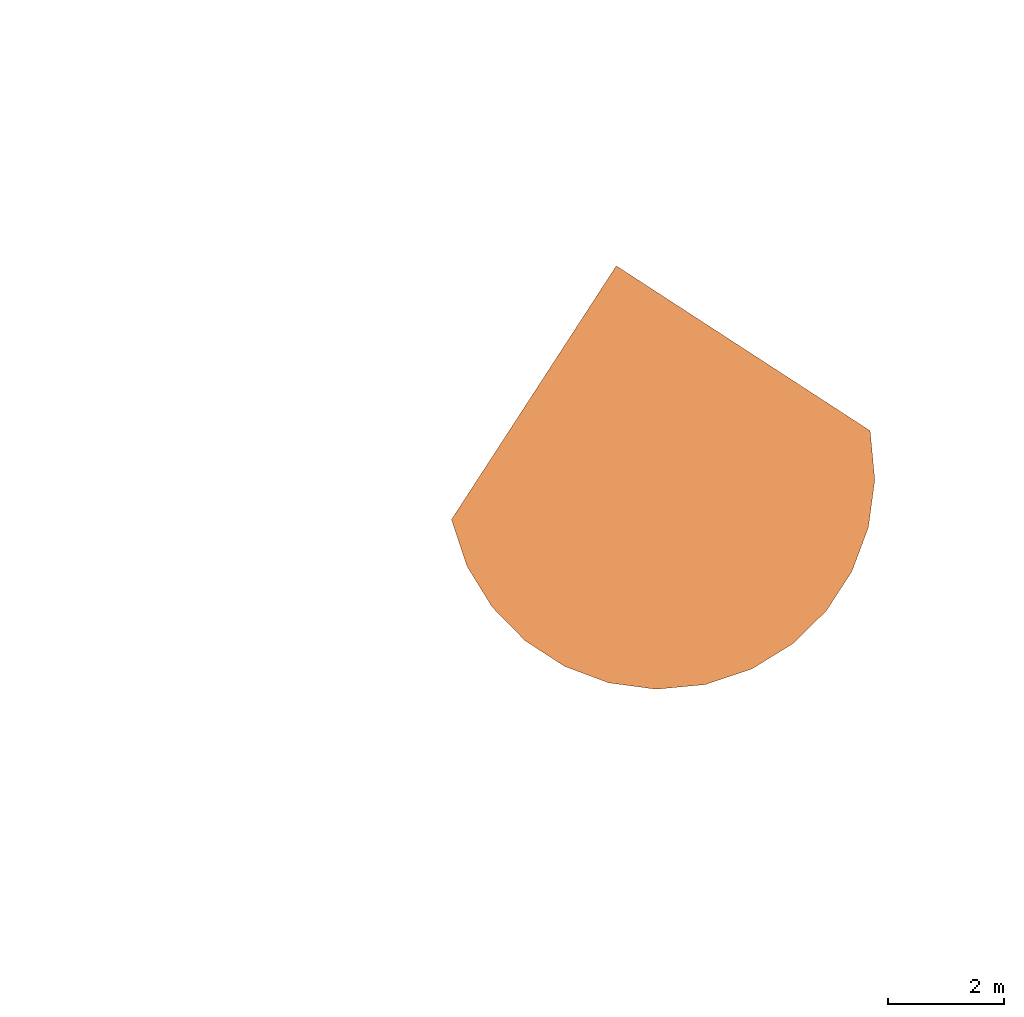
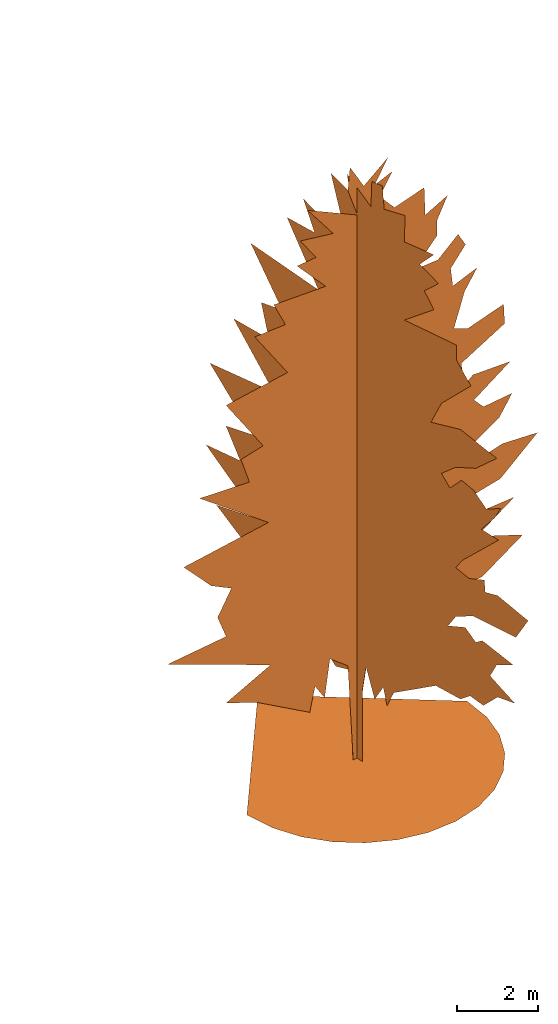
# One storey, part 14 of 17: 1 proxy.
"""IFC2X3 building model written with IfcOpenShell, lengths in centimetres."""

from ifc_helpers import new_model, entity, si_unit, converted_unit, derived_unit, direction, frame, origin, place, context, subcontext, project, spatial, face_set, surface_model, source, transform, mapped, material, type_object, type_shapes, element, save


model = new_model("IFC2X3")

# Units and contexts
model_context = context("Model", 3, precision=0.001, world=origin(), true_north=direction((6.12303176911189e-17, 1.0)))
body_context = subcontext(model_context, "Body", "Model", "MODEL_VIEW")
ifc_project = project(units=[si_unit("LENGTHUNIT", "METRE", prefix="CENTI"), si_unit("AREAUNIT", "SQUARE_METRE"), si_unit("VOLUMEUNIT", "CUBIC_METRE"), converted_unit("PLANEANGLEUNIT", "DEGREE", entity("IfcRatioMeasure", 0.0174532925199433), si_unit("PLANEANGLEUNIT", "RADIAN"), dimensions=[0, 0, 0, 0, 0, 0, 0]), si_unit("MASSUNIT", "GRAM", prefix="KILO"), derived_unit("MASSDENSITYUNIT", [(si_unit("MASSUNIT", "GRAM", prefix="KILO"), 1), (si_unit("LENGTHUNIT", "METRE"), -3)]), derived_unit("IONCONCENTRATIONUNIT", [(si_unit("MASSUNIT", "GRAM", prefix="KILO"), 1), (si_unit("LENGTHUNIT", "METRE"), -3)]), derived_unit("MOMENTOFINERTIAUNIT", [(si_unit("LENGTHUNIT", "METRE"), 4)]), si_unit("TIMEUNIT", "SECOND"), si_unit("FREQUENCYUNIT", "HERTZ"), si_unit("THERMODYNAMICTEMPERATUREUNIT", "DEGREE_CELSIUS"), derived_unit("THERMALTRANSMITTANCEUNIT", [(si_unit("MASSUNIT", "GRAM", prefix="KILO"), 1), (si_unit("THERMODYNAMICTEMPERATUREUNIT", "KELVIN"), -1), (si_unit("TIMEUNIT", "SECOND"), -3)]), derived_unit("THERMALCONDUCTANCEUNIT", [(si_unit("MASSUNIT", "GRAM", prefix="KILO"), 1), (si_unit("THERMODYNAMICTEMPERATUREUNIT", "KELVIN"), -1), (si_unit("TIMEUNIT", "SECOND"), -3), (si_unit("LENGTHUNIT", "METRE"), 1)]), derived_unit("VOLUMETRICFLOWRATEUNIT", [(si_unit("LENGTHUNIT", "METRE"), 3), (si_unit("TIMEUNIT", "SECOND"), -1)]), derived_unit("MASSFLOWRATEUNIT", [(si_unit("MASSUNIT", "GRAM", prefix="KILO"), 1), (si_unit("TIMEUNIT", "SECOND"), -1)]), derived_unit("ROTATIONALFREQUENCYUNIT", [(si_unit("TIMEUNIT", "SECOND"), -1)]), si_unit("ELECTRICCURRENTUNIT", "AMPERE"), si_unit("ELECTRICVOLTAGEUNIT", "VOLT"), si_unit("POWERUNIT", "WATT"), si_unit("FORCEUNIT", "NEWTON", prefix="KILO"), si_unit("ILLUMINANCEUNIT", "LUX"), si_unit("LUMINOUSFLUXUNIT", "LUMEN"), si_unit("LUMINOUSINTENSITYUNIT", "CANDELA"), derived_unit("USERDEFINED", [(si_unit("MASSUNIT", "GRAM", prefix="KILO"), -1), (si_unit("LENGTHUNIT", "METRE"), -2), (si_unit("TIMEUNIT", "SECOND"), 3), (si_unit("LUMINOUSFLUXUNIT", "LUMEN"), 1)]), derived_unit("USERDEFINED", [(si_unit("MASSUNIT", "GRAM", prefix="KILO"), 1), (si_unit("TIMEUNIT", "SECOND"), -3), (si_unit("LENGTHUNIT", "METRE"), 3), (si_unit("ELECTRICCURRENTUNIT", "AMPERE"), -2)]), derived_unit("SOUNDPOWERUNIT", [(si_unit("MASSUNIT", "GRAM", prefix="KILO"), 1), (si_unit("TIMEUNIT", "SECOND"), -3), (si_unit("LENGTHUNIT", "METRE"), 2)]), derived_unit("SOUNDPRESSUREUNIT", [(si_unit("MASSUNIT", "GRAM", prefix="KILO"), 1), (si_unit("LENGTHUNIT", "METRE"), -1), (si_unit("TIMEUNIT", "SECOND"), -2)]), derived_unit("LINEARVELOCITYUNIT", [(si_unit("LENGTHUNIT", "METRE"), 1), (si_unit("TIMEUNIT", "SECOND"), -1)]), si_unit("PRESSUREUNIT", "PASCAL"), derived_unit("USERDEFINED", [(si_unit("MASSUNIT", "GRAM", prefix="KILO"), 1), (si_unit("LENGTHUNIT", "METRE"), -2), (si_unit("TIMEUNIT", "SECOND"), -2)]), derived_unit("LINEARFORCEUNIT", [(si_unit("MASSUNIT", "GRAM", prefix="KILO"), 1), (si_unit("TIMEUNIT", "SECOND"), -2)]), derived_unit("PLANARFORCEUNIT", [(si_unit("MASSUNIT", "GRAM", prefix="KILO"), 1), (si_unit("LENGTHUNIT", "METRE"), -1), (si_unit("TIMEUNIT", "SECOND"), -2)]), derived_unit("SPECIFICHEATCAPACITYUNIT", [(si_unit("THERMODYNAMICTEMPERATUREUNIT", "KELVIN"), -1), (si_unit("LENGTHUNIT", "METRE"), 2), (si_unit("TIMEUNIT", "SECOND"), -2)]), derived_unit("HEATINGVALUEUNIT", [(si_unit("LENGTHUNIT", "METRE"), 2), (si_unit("TIMEUNIT", "SECOND"), -2)]), derived_unit("VAPORPERMEABILITYUNIT", [(si_unit("LENGTHUNIT", "METRE"), -1), (si_unit("TIMEUNIT", "SECOND"), 1)]), derived_unit("DYNAMICVISCOSITYUNIT", [(si_unit("MASSUNIT", "GRAM", prefix="KILO"), 1), (si_unit("TIMEUNIT", "SECOND"), -1), (si_unit("LENGTHUNIT", "METRE"), -1)]), derived_unit("THERMALEXPANSIONCOEFFICIENTUNIT", [(si_unit("THERMODYNAMICTEMPERATUREUNIT", "KELVIN"), -1)]), derived_unit("MODULUSOFELASTICITYUNIT", [(si_unit("MASSUNIT", "GRAM", prefix="KILO"), 1), (si_unit("LENGTHUNIT", "METRE"), -1), (si_unit("TIMEUNIT", "SECOND"), -2)]), derived_unit("ISOTHERMALMOISTURECAPACITYUNIT", [(si_unit("LENGTHUNIT", "METRE"), 3), (si_unit("MASSUNIT", "GRAM", prefix="KILO"), -1)]), derived_unit("MOISTUREDIFFUSIVITYUNIT", [(si_unit("TIMEUNIT", "SECOND"), -1), (si_unit("LENGTHUNIT", "METRE"), 2)])], contexts=[model_context])

# Site, building, storey
site_placement = place(None, frame((14083.8920177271, -6853.25409548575, 6900.0), z_axis=(0.0, 0.0, 1.0), x_axis=(0.978188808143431, 0.207717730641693, 0.0)))
site = spatial("IfcSite", under=ifc_project, at=site_placement, Name="Surface", CompositionType="ELEMENT")
building_placement = place(site_placement, origin())
building = spatial("IfcBuilding", under=site, at=building_placement, CompositionType="ELEMENT")
storey_placement = place(building_placement, origin())
storey = spatial("IfcBuildingStorey", under=building, at=storey_placement, Name="_Rez de chaussée Séjour", CompositionType="ELEMENT", Elevation=2.07727662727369e-10)

# Proxy
ifc_material = material(Name="<Unnamed>")
building_element_proxy_type = type_object("IfcBuildingElementProxyType", Name="PLANTE- Conifères divers:Pin en tige remontée_ Grand", PredefinedType="NOTDEFINED", material=ifc_material)
shared_shape = source(origin(), body_context, "Body", "SurfaceModel", [
    surface_model("IfcFaceBasedSurfaceModel", [(367.677470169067, 3.21416517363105e-05, 4.60540132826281e-05), (0.0196188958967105, 367.657791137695, 4.60540132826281e-05), (-367.638112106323, 0.0, 4.60540132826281e-05), (357.958208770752, -84.2430701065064, 4.60540132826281e-05), (-357.918850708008, -84.2430701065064, 4.60540132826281e-05), (330.27643913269, -161.606385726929, 4.60540132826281e-05), (-330.237081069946, -161.606385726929, 4.60540132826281e-05), (-286.810545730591, -229.874428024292, 4.60540132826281e-05), (286.849903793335, -229.874428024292, 4.60540132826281e-05), (229.894092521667, -286.830224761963, 4.60540132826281e-05), (-229.854763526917, -286.830224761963, 4.60540132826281e-05), (-161.586721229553, -330.256760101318, 4.60540132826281e-05), (-84.2234056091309, -357.93852973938, 4.60540132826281e-05), (0.0196831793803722, -367.657791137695, 4.60540132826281e-05), (84.2627346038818, -357.93852973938, 4.60540132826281e-05), (161.626050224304, -330.256760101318, 4.60540132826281e-05), (22.7530098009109, -0.000102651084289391, 1722.20383209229), (104.088995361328, -0.000105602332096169, 1771.71139160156), (58.1164381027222, -0.000101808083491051, 1708.05888153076), (-288.445562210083, -2.48723456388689e-05, 417.289093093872), (-631.471862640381, -3.45683517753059e-05, 579.961227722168), (-436.972659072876, -3.41467786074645e-05, 572.88869430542), (-79.8014008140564, -9.69600752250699e-05, 1626.72128814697), (-164.673713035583, -0.000103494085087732, 1736.34889892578), (1.53486327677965, -9.80138279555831e-05, 1644.39881378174), (-295.518793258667, -5.0798665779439e-05, 852.26315322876), (-525.381245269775, -6.15485736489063e-05, 1032.61580749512), (-359.172843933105, -5.98623502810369e-05, 1004.3257901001), (394.069231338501, -3.30928768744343e-05, 555.206692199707), (524.914297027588, -3.24605517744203e-05, 544.597921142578), (408.214995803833, -2.9088021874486e-05, 488.016374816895), (386.996726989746, -5.83868719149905e-05, 979.568231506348), (510.769288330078, -5.73328974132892e-05, 961.883264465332), (390.53299369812, -5.37496190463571e-05, 901.770712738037), (-30.2922825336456, -0.000103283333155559, 1732.80888244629), (-23.2195529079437, -0.00010728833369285, 1800.00140899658), (319.806438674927, -7.630355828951e-05, 1280.16104644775), (401.142491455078, -7.73573110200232e-05, 1297.83857208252), (358.705953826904, -7.41955330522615e-05, 1244.79099609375), (118.234011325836, -0.000102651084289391, 1722.20383209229), (75.7982221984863, -9.92783326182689e-05, 1665.62379730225), (-136.382939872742, -9.42195724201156e-05, 1580.74630371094), (-189.428234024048, -9.86460768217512e-05, 1655.01130554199), (227.860844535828, -9.16905700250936e-05, 1538.31121948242), (302.124407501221, -9.3165826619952e-05, 1563.06877807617), (266.761129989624, -8.9582323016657e-05, 1502.94872680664), (-334.418337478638, -1.93920157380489e-05, 325.344269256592), (-436.972659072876, -2.21322170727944e-05, 371.316288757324), (-90.4101573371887, -2.04459157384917e-05, 343.025515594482), (-108.092173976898, -1.3911685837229e-05, 233.398689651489), (-139.919192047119, -1.68626391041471e-05, 282.907731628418), (486.014810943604, -4.32104596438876e-05, 724.951331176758), (602.714141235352, -4.19458094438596e-05, 703.733091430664), (478.941550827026, -3.70978046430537e-05, 622.39700958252), (-104.555921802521, -8.81070733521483e-05, 1478.19116821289), (-200.03699054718, -9.44310728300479e-05, 1584.28632019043), (89.9432381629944, -1.53871624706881e-05, 258.153196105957), (68.7254925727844, -1.20146343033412e-05, 201.57166431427), (33.3619934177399, -1.62303122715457e-05, 272.298960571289), (-486.480974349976, -4.46859345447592e-05, 749.705866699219), (-578.426553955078, -5.05878410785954e-05, 848.723194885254), (440.042035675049, -2.78232971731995e-05, 466.798135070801), (553.20507019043, -2.48723456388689e-05, 417.289093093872), (418.823766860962, -2.10783170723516e-05, 353.635042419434), (-231.864015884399, -7.6092813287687e-05, 1276.62102996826), (-341.490841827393, -8.55780709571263e-05, 1435.75620025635), (-238.936520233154, -8.49458151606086e-05, 1425.15114990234), (422.360760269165, -5.16418155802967e-05, 866.408220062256), (517.841821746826, -5.1430990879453e-05, 862.868203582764), (475.405313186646, -4.82692891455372e-05, 809.820627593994), (-277.836791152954, -8.9582323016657e-05, 1502.94872680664), (365.778458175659, -2.59263201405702e-05, 434.971095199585), (-313.200068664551, -6.51318554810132e-05, 1092.7284173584), (-436.972659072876, -7.58820613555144e-05, 1273.08857116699), (351.633449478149, -2.10783170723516e-05, 353.635042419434), (-419.290656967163, -4.23673098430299e-05, 710.806322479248), (358.705953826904, -5.73328974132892e-05, 961.883264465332), (337.487685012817, -4.46859345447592e-05, 749.705866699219), (-157.600467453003, -1.26469602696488e-05, 212.181176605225), (8.60762412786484, -8.22053123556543e-06, 137.917613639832), (12.1438772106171, 0.0, 0.0), (-12.6104929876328, 0.0, 0.0), (-30.2922825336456, -1.74949642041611e-05, 293.517229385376), (-387.463617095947, -6.47103516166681e-05, 1085.65582580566), (362.242220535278, -4.23673098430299e-05, 710.806322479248), (390.53299369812, -3.66762280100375e-05, 615.324476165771), (125.307264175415, -9.59063294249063e-05, 1609.03632110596), (224.32459236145, -9.67493302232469e-05, 1623.18127166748), (369.315480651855, -6.72397282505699e-05, 1128.09835144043), (489.551048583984, -6.82936265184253e-05, 1145.7758770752), (493.087286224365, -6.47103516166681e-05, 1085.65582580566), (348.097211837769, -6.15485736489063e-05, 1032.61580749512), (270.297396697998, -8.24160642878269e-05, 1382.70862426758), (337.487685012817, -8.51565670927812e-05, 1428.68360870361), (362.242220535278, -8.26268162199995e-05, 1386.24864074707), (312.73317855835, -7.96755614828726e-05, 1336.74108123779), (323.342676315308, -6.85043784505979e-05, 1149.31589355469), (192.497567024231, -1.51763377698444e-05, 254.616958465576), (153.598037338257, -1.30685351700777e-05, 219.253680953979), (-465.263432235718, -3.83624548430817e-05, 643.615249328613), (266.761129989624, -8.68425686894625e-05, 1456.97362609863), (188.961314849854, -8.2837568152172e-05, 1389.78865722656), (270.297396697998, -1.77057889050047e-05, 297.05349609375), (0.0196671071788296, -479.405621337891, 1004.3257901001), (0.0196671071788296, -532.450930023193, 1032.61580749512), (0.0196671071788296, -511.232632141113, 993.713298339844), (0.0196671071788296, -493.5506300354, 505.697679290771), (0.0196671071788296, -585.496238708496, 470.334372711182), (0.0196671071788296, -521.841403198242, 456.189364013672), (0.0196671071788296, -465.259885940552, 597.643229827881), (0.0196671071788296, -578.422949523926, 583.497465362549), (0.0196671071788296, -518.305165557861, 551.670454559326), (0.0196671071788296, -175.279635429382, 1655.01130554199), (0.0196671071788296, -284.906475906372, 1672.69638885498), (0.0196671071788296, -231.861181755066, 1616.10879638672), (0.0196671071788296, 365.782033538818, 533.988452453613), (0.0196671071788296, 560.28120803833, 657.761013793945), (0.0196671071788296, 432.972350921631, 675.443015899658), (0.0196671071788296, -136.379364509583, 268.762722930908), (0.0196671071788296, -111.62483625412, 215.717428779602), (0.0196671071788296, -97.4798275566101, 265.226456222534), (0.0196671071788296, 344.563764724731, 396.070824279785), (0.0196671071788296, 521.380908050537, 495.088908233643), (0.0196671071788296, 157.137123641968, 1510.0212020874), (0.0196671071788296, 199.573661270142, 1591.35879547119), (0.0196671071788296, 33.3651254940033, 1534.77876068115), (0.0196671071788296, -461.723619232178, 933.593247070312), (0.0196671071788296, -525.377698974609, 933.593247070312), (0.0196671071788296, -390.997064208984, 802.748152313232), (0.0196671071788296, 26.2924703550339, 1700.98640625), (0.0196671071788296, 36.9014539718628, 1750.4938494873), (0.0196671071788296, -51.507190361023, 1697.44638977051), (0.0196671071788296, 309.200487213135, 947.738255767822), (0.0196671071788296, 457.726857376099, 1092.7284173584), (0.0196671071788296, 326.881762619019, 1099.80089263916), (0.0196671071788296, 277.373476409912, 1212.96851989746), (0.0196671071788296, 394.07280670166, 1354.41860687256), (0.0196671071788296, 142.992114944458, 1343.81355651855), (0.0196671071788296, 387.000302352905, 777.998151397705), (0.0196671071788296, 546.135443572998, 912.375704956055), (0.0196671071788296, -383.923804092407, 1195.28343658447), (0.0196671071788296, -518.305165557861, 1177.60591094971), (0.0196671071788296, -440.505350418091, 1106.88092559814), (0.0196671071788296, -65.6525769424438, 212.181176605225), (0.0196671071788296, -33.8254753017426, 293.517229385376), (0.0196671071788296, 54.5832453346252, 1598.43127075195), (0.0196671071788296, 97.0193251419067, 1722.20383209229), (0.0196671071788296, 284.445980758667, 236.935683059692), (0.0196671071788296, 464.799361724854, 339.489277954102), (0.0196671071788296, 259.691445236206, 1502.94872680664), (0.0196671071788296, -302.587751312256, 1594.89125427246), (0.0196671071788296, -249.542442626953, 1545.38369476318), (0.0196671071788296, -521.841403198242, 763.853084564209), (0.0196671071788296, -635.004495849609, 746.169570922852), (0.0196671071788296, -589.032476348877, 671.906022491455), (0.0196671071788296, -429.896608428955, 654.224776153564), (0.0196671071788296, -475.86938369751, 749.705866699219), (0.0196671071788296, 486.01763053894, 753.240592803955), (0.0196671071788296, -415.750843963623, 760.313126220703), (0.0196671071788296, -472.332390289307, 785.070626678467), (0.0196671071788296, -101.016079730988, 1715.13135681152), (0.0196671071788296, -178.81588760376, 1736.34889892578), (0.0196671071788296, -366.242528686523, 1071.51087524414), (0.0196671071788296, -274.296978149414, 1159.92094390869), (0.0196671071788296, 125.310098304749, 275.835227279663), (0.0196671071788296, 135.918854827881, 198.035412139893), (0.0196671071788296, -281.370238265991, 1432.22362518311), (0.0196671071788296, -369.778795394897, 1442.82867553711), (0.0196671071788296, -369.778795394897, 1396.86113250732), (0.0196671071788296, -313.197249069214, 1025.54333221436), (0.0196671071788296, -55.0435951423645, 1775.2439666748), (0.0196671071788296, -93.9435753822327, 1782.31644195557), (0.0196671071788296, 355.17253578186, 1195.28343658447), (0.0196671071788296, -284.906475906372, 1506.48118560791), (0.0196671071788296, -175.279635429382, 1418.07867462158), (0.0196671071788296, -422.824075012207, 1347.3461315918), (0.0196671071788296, -313.197249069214, 1237.71852081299), (0.0196671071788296, -19.6800905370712, 212.181176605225), (0.0196671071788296, -19.6800905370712, 4.60540132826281e-05), (0.0196671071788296, 15.68333776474, 4.60540132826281e-05), (0.0196671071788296, 26.2924703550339, 190.962907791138), (0.0196671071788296, 33.3651254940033, 251.080691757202), (0.0196671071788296, -440.505350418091, 579.961227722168), (0.0196671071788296, -468.796123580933, 403.144084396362), (0.0196671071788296, -419.287837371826, 406.680322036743), (0.0196671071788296, -366.242528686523, 767.385601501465), (0.0196671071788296, -366.242528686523, 618.860771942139), (0.0196671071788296, -433.432846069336, 1036.14838256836), (0.0196671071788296, -387.460070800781, 1043.22085784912), (0.0196671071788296, -345.02428894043, 997.253314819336), (0.0196671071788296, -401.605835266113, 604.715705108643), (0.0196671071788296, -337.951784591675, 576.424990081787), (0.0196671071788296, -383.923804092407, 378.389548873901), (0.0196671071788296, -291.978980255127, 371.316288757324), (0.0196671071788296, 79.3373157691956, 236.935683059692)], [face_set([[[0, 1, 2]], [[3, 0, 2]], [[3, 2, 4]], [[5, 3, 4]], [[5, 4, 6]], [[5, 6, 7]], [[8, 5, 7]], [[9, 8, 7]], [[9, 7, 10]], [[9, 10, 11]], [[9, 11, 12]], [[9, 12, 13]], [[9, 13, 14]], [[9, 14, 15]], [[16, 17, 18]], [[19, 20, 21]], [[22, 23, 24]], [[25, 26, 27]], [[28, 29, 30]], [[31, 32, 33]], [[34, 35, 16]], [[36, 37, 38]], [[18, 39, 40]], [[41, 42, 22]], [[43, 44, 45]], [[46, 47, 19]], [[48, 49, 50]], [[51, 52, 53]], [[54, 55, 41]], [[56, 57, 58]], [[59, 60, 25]], [[61, 62, 63]], [[64, 65, 66]], [[67, 68, 69]], [[66, 70, 54]], [[71, 61, 63]], [[72, 73, 64]], [[71, 63, 74]], [[75, 59, 25]], [[24, 34, 16]], [[76, 31, 33]], [[67, 69, 77]], [[50, 78, 46]], [[79, 80, 81]], [[79, 81, 82]], [[58, 79, 82]], [[50, 46, 19]], [[27, 83, 72]], [[84, 51, 53]], [[84, 53, 85]], [[24, 16, 18]], [[24, 18, 40]], [[86, 87, 43]], [[88, 89, 90]], [[88, 90, 91]], [[92, 93, 94]], [[92, 94, 95]], [[48, 50, 19]], [[33, 67, 77]], [[96, 88, 91]], [[97, 98, 56]], [[64, 66, 54]], [[54, 41, 22]], [[54, 22, 24]], [[36, 38, 96]], [[24, 40, 86]], [[54, 24, 86]], [[54, 86, 43]], [[21, 99, 75]], [[54, 43, 45]], [[54, 45, 100]], [[54, 100, 101]], [[64, 54, 101]], [[72, 64, 101]], [[19, 21, 75]], [[19, 75, 25]], [[48, 19, 25]], [[28, 30, 71]], [[25, 27, 72]], [[25, 72, 101]], [[48, 25, 101]], [[48, 101, 92]], [[48, 92, 95]], [[48, 95, 36]], [[48, 36, 96]], [[48, 96, 91]], [[48, 91, 76]], [[48, 76, 33]], [[48, 33, 77]], [[48, 77, 84]], [[48, 84, 85]], [[48, 85, 28]], [[48, 28, 71]], [[82, 48, 71]], [[58, 82, 71]], [[56, 58, 71]], [[97, 56, 71]], [[102, 97, 71]], [[74, 102, 71]], [[103, 104, 105]], [[106, 107, 108]], [[109, 110, 111]], [[112, 113, 114]], [[115, 116, 117]], [[118, 119, 120]], [[121, 122, 115]], [[123, 124, 125]], [[126, 127, 128]], [[129, 130, 131]], [[132, 133, 134]], [[135, 136, 137]], [[138, 139, 132]], [[140, 141, 142]], [[120, 143, 144]], [[145, 146, 129]], [[147, 148, 121]], [[137, 149, 123]], [[114, 150, 151]], [[152, 153, 154]], [[152, 154, 155]], [[156, 152, 155]], [[103, 105, 126]], [[117, 157, 138]], [[158, 159, 156]], [[160, 161, 112]], [[158, 156, 155]], [[140, 142, 162]], [[163, 140, 162]], [[164, 165, 147]], [[166, 167, 168]], [[163, 162, 169]], [[170, 171, 160]], [[131, 170, 160]], [[134, 172, 135]], [[151, 173, 174]], [[168, 175, 176]], [[177, 178, 179]], [[177, 179, 180]], [[177, 180, 181]], [[144, 177, 181]], [[166, 168, 176]], [[174, 166, 176]], [[137, 123, 125]], [[164, 147, 121]], [[109, 111, 106]], [[182, 109, 106]], [[145, 129, 131]], [[106, 108, 183]], [[106, 183, 184]], [[185, 158, 155]], [[185, 155, 186]], [[182, 106, 184]], [[187, 103, 126]], [[188, 187, 126]], [[189, 188, 126]], [[189, 126, 128]], [[125, 145, 131]], [[190, 182, 184]], [[191, 190, 184]], [[191, 184, 192]], [[191, 192, 193]], [[174, 176, 163]], [[131, 160, 112]], [[125, 131, 112]], [[125, 112, 114]], [[125, 114, 151]], [[125, 151, 174]], [[137, 125, 174]], [[137, 174, 163]], [[135, 137, 163]], [[134, 135, 163]], [[132, 134, 163]], [[132, 163, 169]], [[138, 132, 169]], [[138, 169, 189]], [[138, 189, 128]], [[138, 128, 185]], [[138, 185, 186]], [[138, 186, 191]], [[138, 191, 193]], [[138, 193, 118]], [[138, 118, 120]], [[138, 120, 144]], [[117, 138, 144]], [[115, 117, 144]], [[121, 115, 144]], [[164, 121, 144]], [[164, 144, 181]], [[194, 164, 181]]])]),
])
type_shapes(building_element_proxy_type, [shared_shape])
proxy_placement = place(storey_placement, frame((-7074.83288619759, 9429.59649665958, 100.0)))
element("IfcBuildingElementProxy", 1, at=proxy_placement, inside=storey, type_object=building_element_proxy_type, material=ifc_material, Name="PLANTE- Conifères divers:Pin en tige remontée_ Grand", ObjectType="PLANTE- Conifères divers:Pin en tige remontée_ Grand", context=body_context, shape_type="MappedRepresentation", body=[
    mapped(shared_shape, transform((0.0, 0.0, 0.0), scale=1.0)),
])

save(model, "model.ifc")
